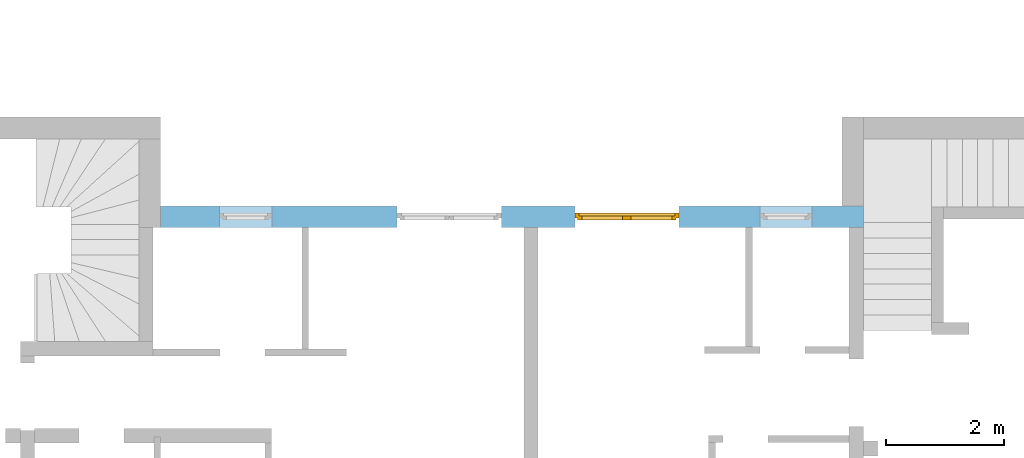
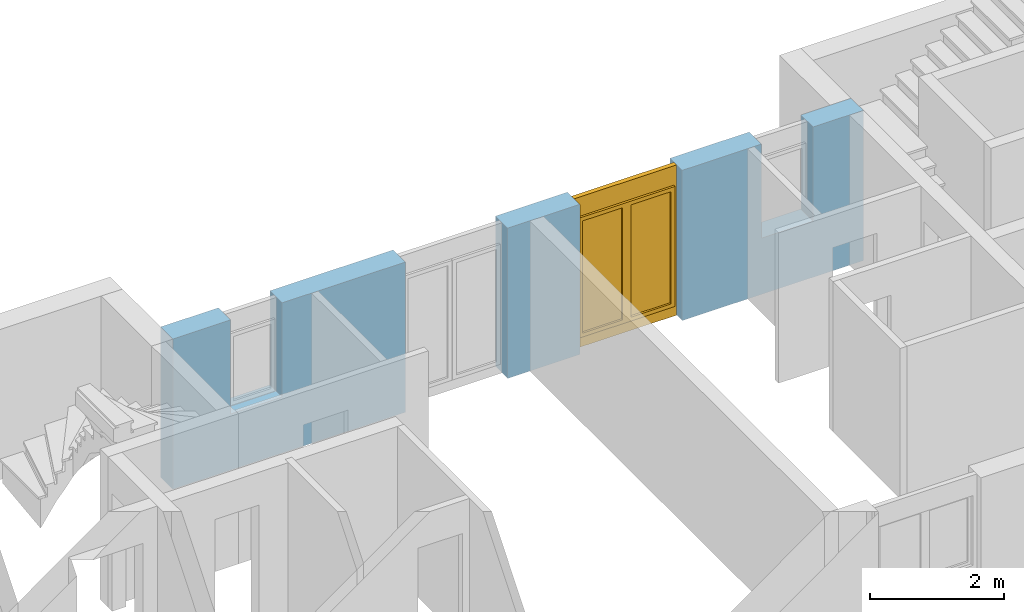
# One storey, part 34 of 41: 1 window, 4 openings, plus 1 element that does not belong to this part.
"""IFC2X3 building model written with IfcOpenShell, lengths in millimetres."""

from ifc_helpers import new_model, entity, si_unit, converted_unit, frame, frame_2d, origin, origin_with_axes, place, context, subcontext, project, spatial, rectangle, extrude, faceted_brep, material, layer, layer_set, layer_usage, type_object, element, fill, save


model = new_model("IFC2X3")

# Units and contexts
model_context = context("Model", 3, precision=1e-05, world=origin())
body_context = subcontext(model_context, "Body", "Model", "MODEL_VIEW")
ifc_project = project(units=[si_unit("LENGTHUNIT", "METRE", prefix="MILLI"), converted_unit("PLANEANGLEUNIT", "DEGREE", entity("IfcPlaneAngleMeasure", 0.0174532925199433), si_unit("PLANEANGLEUNIT", "RADIAN"), dimensions=[0, 0, 0, 0, 0, 0, 0]), si_unit("AREAUNIT", "SQUARE_METRE"), si_unit("VOLUMEUNIT", "CUBIC_METRE")], contexts=[model_context])

# Building, storey
building_placement = place(None, origin())
building = spatial("IfcBuilding", under=ifc_project, at=building_placement, Name="Gebäude", CompositionType="ELEMENT")
storey_placement = place(building_placement, frame((0.0, 0.0, -200.0), z_axis=(0.0, 0.0, 1.0), x_axis=(1.0, 0.0, 0.0)))
storey = spatial("IfcBuildingStorey", under=building, at=storey_placement, Name="EG.- Grundriss", CompositionType="ELEMENT", Elevation=-200.0)

# Wall, openings, window
ifc_material_1 = material(Name="Poroton")
ifc_layer = layer(ifc_material_1, 365.0000000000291)
ifc_layer_set = layer_set([ifc_layer])
ifc_layer_usage = layer_usage(ifc_layer_set, "AXIS2", "POSITIVE", 0.0)
wall_placement = place(storey_placement, frame((176237.7928067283, 134774.8877324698, 0.0), z_axis=(0.0, 0.0, 1.0), x_axis=(-1.0, 0.0, 0.0)))
wall = element("IfcWallStandardCase", 1, at=wall_placement, inside=storey, material=ifc_layer_usage, Name="<Unnamed Element>", context=body_context, shape_type="SweptSolid", body=[
    extrude(rectangle(XDim=11869.99999999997, YDim=365.0000000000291, at=frame_2d((5934.999999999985, 182.5000000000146), x_axis=(1.0, 0.0))), origin_with_axes(), (0.0, 0.0, 1.0), 2730.0),
])
opening_1_placement = place(wall_placement, frame((9990.00000000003, 0.0, 1020.0), z_axis=(0.0, 1.0, 0.0), x_axis=(0.0, 0.0, 1.0)))
element("IfcOpeningElement", 2, at=opening_1_placement, cuts=wall, Name="Fensteröffnung", ObjectType="Opening", context=body_context, shape_type="SweptSolid", body=[
    extrude(rectangle(XDim=1710.0, YDim=885.0, at=frame_2d((855.0, 442.5), x_axis=(1.0, 0.0))), origin_with_axes(), (0.0, 0.0, 1.0), 365.0000000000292),
])
opening_2_placement = place(wall_placement, frame((6115.000000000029, 0.0, 0.0), z_axis=(0.0, 1.0, 0.0), x_axis=(0.0, 0.0, 1.0)))
element("IfcOpeningElement", 3, at=opening_2_placement, cuts=wall, Name="Fensteröffnung", ObjectType="Opening", context=body_context, shape_type="SweptSolid", body=[
    extrude(rectangle(XDim=2730.0, YDim=1760.0, at=frame_2d((1365.0, 880.0), x_axis=(1.0, 0.0))), origin_with_axes(), (0.0, 0.0, 1.0), 365.0000000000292),
])
opening_3_placement = place(wall_placement, frame((3115.000000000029, 0.0, 0.0), z_axis=(0.0, 1.0, 0.0), x_axis=(0.0, 0.0, 1.0)))
opening_3 = element("IfcOpeningElement", 4, at=opening_3_placement, cuts=wall, Name="Fensteröffnung", ObjectType="Opening", context=body_context, shape_type="SweptSolid", body=[
    extrude(rectangle(XDim=2730.0, YDim=1760.0, at=frame_2d((1365.0, 880.0), x_axis=(1.0, 0.0))), origin_with_axes(), (0.0, 0.0, 1.0), 365.0000000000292),
])
opening_4_placement = place(wall_placement, frame((865.0000000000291, 0.0, 1020.0), z_axis=(0.0, 1.0, 0.0), x_axis=(0.0, 0.0, 1.0)))
element("IfcOpeningElement", 5, at=opening_4_placement, cuts=wall, Name="Fensteröffnung", ObjectType="Opening", context=body_context, shape_type="SweptSolid", body=[
    extrude(rectangle(XDim=1710.0, YDim=885.0, at=frame_2d((855.0, 442.5), x_axis=(1.0, 0.0))), origin_with_axes(), (0.0, 0.0, 1.0), 365.0000000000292),
])
ifc_material_2 = material()
window_style = type_object("IfcWindowStyle", Name="Fenster", ConstructionType="NOTDEFINED", OperationType="USERDEFINED", ParameterTakesPrecedence=False, Sizeable=False)
window_placement = place(opening_3_placement, frame((0.0, 0.0, 0.0), z_axis=(1.0, 0.0, 0.0), x_axis=(0.0, 1.0, 0.0)))
window = element("IfcWindow", 6, at=window_placement, inside=storey, type_object=window_style, material=ifc_material_2, Name="Fenster", OverallHeight=2730.0, OverallWidth=1760.0, context=body_context, shape_type="Brep", body=[
    faceted_brep([(9.797174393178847e-15, 200.0000000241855, 2730.0), (9.797174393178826e-15, 200.0000000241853, -2.449293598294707e-15), (70.00000000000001, 200.0000000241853, -2.449293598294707e-15), (70.00000000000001, 200.0000000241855, 2730.0), (0.0, 120.0000000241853, 2.449293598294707e-15), (2.088393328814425e-29, 120.0000000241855, 2730.0), (70.0, 120.0000000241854, 2730.0), (70.0, 120.0000000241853, 2.449293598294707e-15), (9.797174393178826e-15, 200.0000000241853, -2.449293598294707e-15), (9.797174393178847e-15, 200.0000000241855, 2730.0), (2.088393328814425e-29, 120.0000000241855, 2730.0), (0.0, 120.0000000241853, 2.449293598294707e-15), (70.00000000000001, 200.0000000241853, -2.449293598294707e-15), (9.797174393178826e-15, 200.0000000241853, -2.449293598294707e-15), (0.0, 120.0000000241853, 2.449293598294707e-15), (70.0, 120.0000000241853, 2.449293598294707e-15), (70.00000000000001, 200.0000000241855, 2730.0), (70.00000000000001, 200.0000000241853, -2.449293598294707e-15), (70.0, 120.0000000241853, 2.449293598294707e-15), (70.0, 120.0000000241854, 2730.0), (9.797174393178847e-15, 200.0000000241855, 2730.0), (70.00000000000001, 200.0000000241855, 2730.0), (70.0, 120.0000000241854, 2730.0), (2.088393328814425e-29, 120.0000000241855, 2730.0)], [[[0, 1, 2, 3]], [[4, 5, 6, 7]], [[8, 9, 10, 11]], [[12, 13, 14, 15]], [[16, 17, 18, 19]], [[20, 21, 22, 23]]], orient=[[False], [False], [False], [False], [False], [False]]),
    faceted_brep([(1690.000000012, 200.0000000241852, 2730.0), (1690.000000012, 200.0000000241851, -2.449293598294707e-15), (1760.000000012, 200.0000000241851, -2.449293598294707e-15), (1760.000000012, 200.0000000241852, 2730.0), (1690.000000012, 120.0000000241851, 2.449293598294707e-15), (1690.000000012, 120.0000000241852, 2730.0), (1760.000000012, 120.0000000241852, 2730.0), (1760.000000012, 120.0000000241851, 2.449293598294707e-15), (1690.000000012, 200.0000000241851, -2.449293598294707e-15), (1690.000000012, 200.0000000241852, 2730.0), (1690.000000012, 120.0000000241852, 2730.0), (1690.000000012, 120.0000000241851, 2.449293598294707e-15), (1760.000000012, 200.0000000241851, -2.449293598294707e-15), (1690.000000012, 200.0000000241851, -2.449293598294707e-15), (1690.000000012, 120.0000000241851, 2.449293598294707e-15), (1760.000000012, 120.0000000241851, 2.449293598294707e-15), (1760.000000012, 200.0000000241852, 2730.0), (1760.000000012, 200.0000000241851, -2.449293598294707e-15), (1760.000000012, 120.0000000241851, 2.449293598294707e-15), (1760.000000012, 120.0000000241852, 2730.0), (1690.000000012, 200.0000000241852, 2730.0), (1760.000000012, 200.0000000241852, 2730.0), (1760.000000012, 120.0000000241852, 2730.0), (1690.000000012, 120.0000000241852, 2730.0)], [[[0, 1, 2, 3]], [[4, 5, 6, 7]], [[8, 9, 10, 11]], [[12, 13, 14, 15]], [[16, 17, 18, 19]], [[20, 21, 22, 23]]], orient=[[False], [False], [False], [False], [False], [False]]),
    faceted_brep([(70.00000000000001, 200.0000000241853, 220.0), (70.00000000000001, 200.0000000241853, -2.449293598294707e-15), (1690.000000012, 200.0000000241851, -2.449293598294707e-15), (1690.000000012, 200.0000000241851, 220.0), (70.0, 120.0000000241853, 2.449293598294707e-15), (70.0, 120.0000000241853, 220.0), (1690.000000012, 120.0000000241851, 220.0), (1690.000000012, 120.0000000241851, 2.449293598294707e-15), (70.00000000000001, 200.0000000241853, -2.449293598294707e-15), (70.00000000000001, 200.0000000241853, 220.0), (70.0, 120.0000000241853, 220.0), (70.0, 120.0000000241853, 2.449293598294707e-15), (1690.000000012, 200.0000000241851, -2.449293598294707e-15), (70.00000000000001, 200.0000000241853, -2.449293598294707e-15), (70.0, 120.0000000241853, 2.449293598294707e-15), (1690.000000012, 120.0000000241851, 2.449293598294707e-15), (1690.000000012, 200.0000000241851, 220.0), (1690.000000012, 200.0000000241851, -2.449293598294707e-15), (1690.000000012, 120.0000000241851, 2.449293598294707e-15), (1690.000000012, 120.0000000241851, 220.0), (70.00000000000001, 200.0000000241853, 220.0), (1690.000000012, 200.0000000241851, 220.0), (1690.000000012, 120.0000000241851, 220.0), (70.0, 120.0000000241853, 220.0)], [[[0, 1, 2, 3]], [[4, 5, 6, 7]], [[8, 9, 10, 11]], [[12, 13, 14, 15]], [[16, 17, 18, 19]], [[20, 21, 22, 23]]], orient=[[False], [False], [False], [False], [False], [False]]),
    faceted_brep([(70.00000000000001, 200.0000000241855, 2730.0), (70.00000000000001, 200.0000000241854, 2360.0), (1690.000000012, 200.0000000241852, 2360.0), (1690.000000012, 200.0000000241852, 2730.0), (70.0, 120.0000000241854, 2360.0), (70.0, 120.0000000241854, 2730.0), (1690.000000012, 120.0000000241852, 2730.0), (1690.000000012, 120.0000000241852, 2360.0), (70.00000000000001, 200.0000000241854, 2360.0), (70.00000000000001, 200.0000000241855, 2730.0), (70.0, 120.0000000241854, 2730.0), (70.0, 120.0000000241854, 2360.0), (1690.000000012, 200.0000000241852, 2360.0), (70.00000000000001, 200.0000000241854, 2360.0), (70.0, 120.0000000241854, 2360.0), (1690.000000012, 120.0000000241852, 2360.0), (1690.000000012, 200.0000000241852, 2730.0), (1690.000000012, 200.0000000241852, 2360.0), (1690.000000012, 120.0000000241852, 2360.0), (1690.000000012, 120.0000000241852, 2730.0), (70.00000000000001, 200.0000000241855, 2730.0), (1690.000000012, 200.0000000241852, 2730.0), (1690.000000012, 120.0000000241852, 2730.0), (70.0, 120.0000000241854, 2730.0)], [[[0, 1, 2, 3]], [[4, 5, 6, 7]], [[8, 9, 10, 11]], [[12, 13, 14, 15]], [[16, 17, 18, 19]], [[20, 21, 22, 23]]], orient=[[False], [False], [False], [False], [False], [False]]),
    faceted_brep([(50.00000000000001, 240.0000000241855, 2380.0), (50.00000000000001, 240.0000000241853, 200.0), (120.0, 240.0000000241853, 200.0), (120.0, 240.0000000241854, 2380.0), (50.00000000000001, 170.0000000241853, 200.0), (50.00000000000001, 170.0000000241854, 2380.0), (120.0, 170.0000000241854, 2380.0), (120.0, 170.0000000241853, 200.0), (50.00000000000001, 240.0000000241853, 200.0), (50.00000000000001, 240.0000000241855, 2380.0), (50.00000000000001, 170.0000000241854, 2380.0), (50.00000000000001, 170.0000000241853, 200.0), (120.0, 240.0000000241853, 200.0), (50.00000000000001, 240.0000000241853, 200.0), (50.00000000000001, 170.0000000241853, 200.0), (120.0, 170.0000000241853, 200.0), (120.0, 240.0000000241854, 2380.0), (120.0, 240.0000000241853, 200.0), (120.0, 170.0000000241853, 200.0), (120.0, 170.0000000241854, 2380.0), (50.00000000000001, 240.0000000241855, 2380.0), (120.0, 240.0000000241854, 2380.0), (120.0, 170.0000000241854, 2380.0), (50.00000000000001, 170.0000000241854, 2380.0)], [[[0, 1, 2, 3]], [[4, 5, 6, 7]], [[8, 9, 10, 11]], [[12, 13, 14, 15]], [[16, 17, 18, 19]], [[20, 21, 22, 23]]], orient=[[False], [False], [False], [False], [False], [False]]),
    faceted_brep([(809.5000000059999, 240.0000000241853, 2380.0), (809.5000000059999, 240.0000000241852, 200.0), (879.5000000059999, 240.0000000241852, 200.0), (879.5000000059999, 240.0000000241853, 2380.0), (809.5000000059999, 170.0000000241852, 200.0), (809.5000000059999, 170.0000000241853, 2380.0), (879.5000000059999, 170.0000000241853, 2380.0), (879.5000000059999, 170.0000000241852, 200.0), (809.5000000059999, 240.0000000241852, 200.0), (809.5000000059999, 240.0000000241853, 2380.0), (809.5000000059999, 170.0000000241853, 2380.0), (809.5000000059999, 170.0000000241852, 200.0), (879.5000000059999, 240.0000000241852, 200.0), (809.5000000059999, 240.0000000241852, 200.0), (809.5000000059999, 170.0000000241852, 200.0), (879.5000000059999, 170.0000000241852, 200.0), (879.5000000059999, 240.0000000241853, 2380.0), (879.5000000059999, 240.0000000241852, 200.0), (879.5000000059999, 170.0000000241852, 200.0), (879.5000000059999, 170.0000000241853, 2380.0), (809.5000000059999, 240.0000000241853, 2380.0), (879.5000000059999, 240.0000000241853, 2380.0), (879.5000000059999, 170.0000000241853, 2380.0), (809.5000000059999, 170.0000000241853, 2380.0)], [[[0, 1, 2, 3]], [[4, 5, 6, 7]], [[8, 9, 10, 11]], [[12, 13, 14, 15]], [[16, 17, 18, 19]], [[20, 21, 22, 23]]], orient=[[False], [False], [False], [False], [False], [False]]),
    faceted_brep([(120.0, 240.0000000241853, 270.0), (120.0, 240.0000000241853, 200.0), (809.5000000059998, 240.0000000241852, 200.0), (809.5000000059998, 240.0000000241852, 270.0), (120.0, 170.0000000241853, 200.0), (120.0, 170.0000000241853, 270.0), (809.5000000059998, 170.0000000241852, 270.0), (809.5000000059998, 170.0000000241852, 200.0), (120.0, 240.0000000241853, 200.0), (120.0, 240.0000000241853, 270.0), (120.0, 170.0000000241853, 270.0), (120.0, 170.0000000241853, 200.0), (809.5000000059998, 240.0000000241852, 200.0), (120.0, 240.0000000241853, 200.0), (120.0, 170.0000000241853, 200.0), (809.5000000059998, 170.0000000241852, 200.0), (809.5000000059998, 240.0000000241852, 270.0), (809.5000000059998, 240.0000000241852, 200.0), (809.5000000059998, 170.0000000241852, 200.0), (809.5000000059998, 170.0000000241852, 270.0), (120.0, 240.0000000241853, 270.0), (809.5000000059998, 240.0000000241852, 270.0), (809.5000000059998, 170.0000000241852, 270.0), (120.0, 170.0000000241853, 270.0)], [[[0, 1, 2, 3]], [[4, 5, 6, 7]], [[8, 9, 10, 11]], [[12, 13, 14, 15]], [[16, 17, 18, 19]], [[20, 21, 22, 23]]], orient=[[False], [False], [False], [False], [False], [False]]),
    faceted_brep([(120.0, 240.0000000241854, 2380.0), (120.0, 240.0000000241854, 2310.0), (809.5000000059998, 240.0000000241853, 2310.0), (809.5000000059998, 240.0000000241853, 2380.0), (120.0, 170.0000000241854, 2310.0), (120.0, 170.0000000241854, 2380.0), (809.5000000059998, 170.0000000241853, 2380.0), (809.5000000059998, 170.0000000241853, 2310.0), (120.0, 240.0000000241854, 2310.0), (120.0, 240.0000000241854, 2380.0), (120.0, 170.0000000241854, 2380.0), (120.0, 170.0000000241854, 2310.0), (809.5000000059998, 240.0000000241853, 2310.0), (120.0, 240.0000000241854, 2310.0), (120.0, 170.0000000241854, 2310.0), (809.5000000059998, 170.0000000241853, 2310.0), (809.5000000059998, 240.0000000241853, 2380.0), (809.5000000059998, 240.0000000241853, 2310.0), (809.5000000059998, 170.0000000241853, 2310.0), (809.5000000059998, 170.0000000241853, 2380.0), (120.0, 240.0000000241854, 2380.0), (809.5000000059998, 240.0000000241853, 2380.0), (809.5000000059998, 170.0000000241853, 2380.0), (120.0, 170.0000000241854, 2380.0)], [[[0, 1, 2, 3]], [[4, 5, 6, 7]], [[8, 9, 10, 11]], [[12, 13, 14, 15]], [[16, 17, 18, 19]], [[20, 21, 22, 23]]], orient=[[False], [False], [False], [False], [False], [False]]),
    faceted_brep([(880.5000000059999, 240.0000000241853, 2380.0), (880.5000000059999, 240.0000000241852, 200.0), (950.5000000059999, 240.0000000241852, 200.0), (950.5000000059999, 240.0000000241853, 2380.0), (880.5000000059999, 170.0000000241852, 200.0), (880.5000000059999, 170.0000000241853, 2380.0), (950.5000000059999, 170.0000000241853, 2380.0), (950.5000000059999, 170.0000000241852, 200.0), (880.5000000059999, 240.0000000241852, 200.0), (880.5000000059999, 240.0000000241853, 2380.0), (880.5000000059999, 170.0000000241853, 2380.0), (880.5000000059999, 170.0000000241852, 200.0), (950.5000000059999, 240.0000000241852, 200.0), (880.5000000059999, 240.0000000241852, 200.0), (880.5000000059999, 170.0000000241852, 200.0), (950.5000000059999, 170.0000000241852, 200.0), (950.5000000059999, 240.0000000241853, 2380.0), (950.5000000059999, 240.0000000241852, 200.0), (950.5000000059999, 170.0000000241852, 200.0), (950.5000000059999, 170.0000000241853, 2380.0), (880.5000000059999, 240.0000000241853, 2380.0), (950.5000000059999, 240.0000000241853, 2380.0), (950.5000000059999, 170.0000000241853, 2380.0), (880.5000000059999, 170.0000000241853, 2380.0)], [[[0, 1, 2, 3]], [[4, 5, 6, 7]], [[8, 9, 10, 11]], [[12, 13, 14, 15]], [[16, 17, 18, 19]], [[20, 21, 22, 23]]], orient=[[False], [False], [False], [False], [False], [False]]),
    faceted_brep([(1640.000000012, 240.0000000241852, 2380.0), (1640.000000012, 240.0000000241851, 200.0), (1710.000000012, 240.0000000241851, 200.0), (1710.000000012, 240.0000000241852, 2380.0), (1640.000000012, 170.0000000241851, 200.0), (1640.000000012, 170.0000000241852, 2380.0), (1710.000000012, 170.0000000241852, 2380.0), (1710.000000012, 170.0000000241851, 200.0), (1640.000000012, 240.0000000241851, 200.0), (1640.000000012, 240.0000000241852, 2380.0), (1640.000000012, 170.0000000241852, 2380.0), (1640.000000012, 170.0000000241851, 200.0), (1710.000000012, 240.0000000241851, 200.0), (1640.000000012, 240.0000000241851, 200.0), (1640.000000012, 170.0000000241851, 200.0), (1710.000000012, 170.0000000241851, 200.0), (1710.000000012, 240.0000000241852, 2380.0), (1710.000000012, 240.0000000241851, 200.0), (1710.000000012, 170.0000000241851, 200.0), (1710.000000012, 170.0000000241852, 2380.0), (1640.000000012, 240.0000000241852, 2380.0), (1710.000000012, 240.0000000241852, 2380.0), (1710.000000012, 170.0000000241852, 2380.0), (1640.000000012, 170.0000000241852, 2380.0)], [[[0, 1, 2, 3]], [[4, 5, 6, 7]], [[8, 9, 10, 11]], [[12, 13, 14, 15]], [[16, 17, 18, 19]], [[20, 21, 22, 23]]], orient=[[False], [False], [False], [False], [False], [False]]),
    faceted_brep([(950.5000000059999, 240.0000000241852, 270.0), (950.5000000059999, 240.0000000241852, 200.0), (1640.000000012, 240.0000000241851, 200.0), (1640.000000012, 240.0000000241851, 270.0), (950.5000000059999, 170.0000000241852, 200.0), (950.5000000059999, 170.0000000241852, 270.0), (1640.000000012, 170.0000000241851, 270.0), (1640.000000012, 170.0000000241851, 200.0), (950.5000000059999, 240.0000000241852, 200.0), (950.5000000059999, 240.0000000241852, 270.0), (950.5000000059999, 170.0000000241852, 270.0), (950.5000000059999, 170.0000000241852, 200.0), (1640.000000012, 240.0000000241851, 200.0), (950.5000000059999, 240.0000000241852, 200.0), (950.5000000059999, 170.0000000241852, 200.0), (1640.000000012, 170.0000000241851, 200.0), (1640.000000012, 240.0000000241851, 270.0), (1640.000000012, 240.0000000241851, 200.0), (1640.000000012, 170.0000000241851, 200.0), (1640.000000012, 170.0000000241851, 270.0), (950.5000000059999, 240.0000000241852, 270.0), (1640.000000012, 240.0000000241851, 270.0), (1640.000000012, 170.0000000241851, 270.0), (950.5000000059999, 170.0000000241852, 270.0)], [[[0, 1, 2, 3]], [[4, 5, 6, 7]], [[8, 9, 10, 11]], [[12, 13, 14, 15]], [[16, 17, 18, 19]], [[20, 21, 22, 23]]], orient=[[False], [False], [False], [False], [False], [False]]),
    faceted_brep([(950.5000000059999, 240.0000000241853, 2380.0), (950.5000000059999, 240.0000000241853, 2310.0), (1640.000000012, 240.0000000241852, 2310.0), (1640.000000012, 240.0000000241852, 2380.0), (950.5000000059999, 170.0000000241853, 2310.0), (950.5000000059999, 170.0000000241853, 2380.0), (1640.000000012, 170.0000000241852, 2380.0), (1640.000000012, 170.0000000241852, 2310.0), (950.5000000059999, 240.0000000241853, 2310.0), (950.5000000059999, 240.0000000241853, 2380.0), (950.5000000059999, 170.0000000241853, 2380.0), (950.5000000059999, 170.0000000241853, 2310.0), (1640.000000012, 240.0000000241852, 2310.0), (950.5000000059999, 240.0000000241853, 2310.0), (950.5000000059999, 170.0000000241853, 2310.0), (1640.000000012, 170.0000000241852, 2310.0), (1640.000000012, 240.0000000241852, 2380.0), (1640.000000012, 240.0000000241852, 2310.0), (1640.000000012, 170.0000000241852, 2310.0), (1640.000000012, 170.0000000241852, 2380.0), (950.5000000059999, 240.0000000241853, 2380.0), (1640.000000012, 240.0000000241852, 2380.0), (1640.000000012, 170.0000000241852, 2380.0), (950.5000000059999, 170.0000000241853, 2380.0)], [[[0, 1, 2, 3]], [[4, 5, 6, 7]], [[8, 9, 10, 11]], [[12, 13, 14, 15]], [[16, 17, 18, 19]], [[20, 21, 22, 23]]], orient=[[False], [False], [False], [False], [False], [False]]),
    faceted_brep([(120.0, 205.0000000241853, 270.0), (809.5000000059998, 205.0000000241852, 270.0), (809.5000000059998, 205.0000000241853, 2310.0), (120.0, 205.0000000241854, 2310.0), (120.0, 204.0000000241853, 270.0), (120.0, 204.0000000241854, 2310.0), (809.5000000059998, 204.0000000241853, 2310.0), (809.5000000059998, 204.0000000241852, 270.0), (120.0, 205.0000000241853, 270.0), (120.0, 204.0000000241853, 270.0), (809.5000000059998, 204.0000000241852, 270.0), (809.5000000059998, 205.0000000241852, 270.0), (809.5000000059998, 205.0000000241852, 270.0), (809.5000000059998, 204.0000000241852, 270.0), (809.5000000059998, 204.0000000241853, 2310.0), (809.5000000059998, 205.0000000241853, 2310.0), (809.5000000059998, 205.0000000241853, 2310.0), (809.5000000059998, 204.0000000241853, 2310.0), (120.0, 204.0000000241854, 2310.0), (120.0, 205.0000000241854, 2310.0), (120.0, 205.0000000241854, 2310.0), (120.0, 204.0000000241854, 2310.0), (120.0, 204.0000000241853, 270.0), (120.0, 205.0000000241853, 270.0)], [[[0, 1, 2, 3]], [[4, 5, 6, 7]], [[8, 9, 10, 11]], [[12, 13, 14, 15]], [[16, 17, 18, 19]], [[20, 21, 22, 23]]], orient=[[False], [False], [False], [False], [False], [False]]),
    faceted_brep([(950.5000000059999, 205.0000000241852, 270.0), (1640.000000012, 205.0000000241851, 270.0), (1640.000000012, 205.0000000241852, 2310.0), (950.5000000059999, 205.0000000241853, 2310.0), (950.5000000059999, 204.0000000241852, 270.0), (950.5000000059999, 204.0000000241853, 2310.0), (1640.000000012, 204.0000000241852, 2310.0), (1640.000000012, 204.0000000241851, 270.0), (950.5000000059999, 205.0000000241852, 270.0), (950.5000000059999, 204.0000000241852, 270.0), (1640.000000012, 204.0000000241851, 270.0), (1640.000000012, 205.0000000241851, 270.0), (1640.000000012, 205.0000000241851, 270.0), (1640.000000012, 204.0000000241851, 270.0), (1640.000000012, 204.0000000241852, 2310.0), (1640.000000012, 205.0000000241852, 2310.0), (1640.000000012, 205.0000000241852, 2310.0), (1640.000000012, 204.0000000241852, 2310.0), (950.5000000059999, 204.0000000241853, 2310.0), (950.5000000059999, 205.0000000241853, 2310.0), (950.5000000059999, 205.0000000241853, 2310.0), (950.5000000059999, 204.0000000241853, 2310.0), (950.5000000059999, 204.0000000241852, 270.0), (950.5000000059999, 205.0000000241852, 270.0)], [[[0, 1, 2, 3]], [[4, 5, 6, 7]], [[8, 9, 10, 11]], [[12, 13, 14, 15]], [[16, 17, 18, 19]], [[20, 21, 22, 23]]], orient=[[False], [False], [False], [False], [False], [False]]),
])
fill(opening_3, window)

save(model, "model.ifc")
